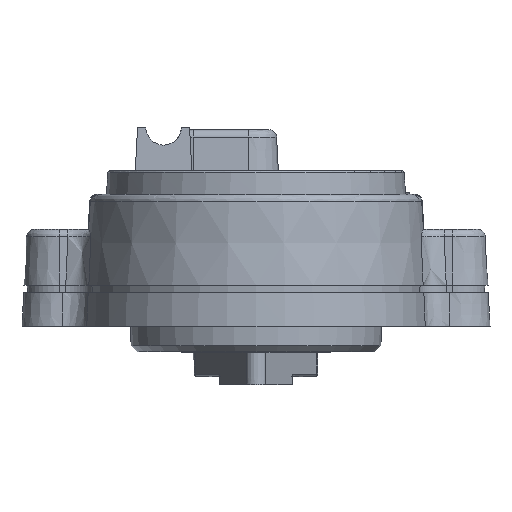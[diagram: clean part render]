
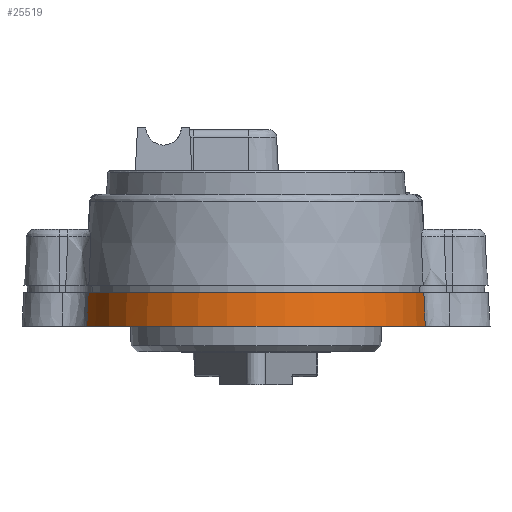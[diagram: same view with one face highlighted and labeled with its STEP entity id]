
A CAD part, left-side view. The second image highlights one B-rep face of the part: STEP entity #25519.
In plain terms, the highlighted conical face has half-angle 3 degrees and reference radius 22 mm.
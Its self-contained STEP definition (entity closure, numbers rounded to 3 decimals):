
#2554 = AXIS2_PLACEMENT_3D ( 'NONE', #8058, #27180, #33825 ) ;
#3323 = CARTESIAN_POINT ( 'NONE',  ( -62.205, 3.612, 5.426 ) ) ;
#3790 = ORIENTED_EDGE ( 'NONE', *, *, #26804, .T. ) ;
#3944 = EDGE_CURVE ( 'NONE', #24732, #22750, #13538, .T. ) ;
#4279 = AXIS2_PLACEMENT_3D ( 'NONE', #3323, #28489, #9762 ) ;
#5493 = DIRECTION ( 'NONE',  ( 0., 0., 1. ) ) ;
#6425 = CARTESIAN_POINT ( 'NONE',  ( -66.805, -17.902, 1.226 ) ) ;
#8058 = CARTESIAN_POINT ( 'NONE',  ( -62.205, 3.612, 1.226 ) ) ;
#9420 = DIRECTION ( 'NONE',  ( 0., 1., 0. ) ) ;
#9762 = DIRECTION ( 'NONE',  ( 0., 1., 0. ) ) ;
#10326 = CARTESIAN_POINT ( 'NONE',  ( -66.805, 25.126, 1.226 ) ) ;
#10597 = CIRCLE ( 'NONE', #39843, 22. ) ;
#10940 = CARTESIAN_POINT ( 'NONE',  ( -66.663, -17.781, 4.046 ) ) ;
#11056 = B_SPLINE_CURVE_WITH_KNOTS ( 'NONE', 3,
 ( #33584, #30275, #40039, #33371 ),
 .UNSPECIFIED., .F., .F.,
 ( 4, 4 ),
 ( 0., 1. ),
 .UNSPECIFIED. ) ;
#13015 = VERTEX_POINT ( 'NONE', #10326 ) ;
#13538 = CIRCLE ( 'NONE', #4279, 21.78 ) ;
#13865 = ORIENTED_EDGE ( 'NONE', *, *, #26716, .T. ) ;
#17151 = CARTESIAN_POINT ( 'NONE',  ( -66.592, 24.946, 5.426 ) ) ;
#18765 = CARTESIAN_POINT ( 'NONE',  ( -62.205, 3.612, 1.226 ) ) ;
#21121 = FACE_OUTER_BOUND ( 'NONE', #35019, .T. ) ;
#22750 = VERTEX_POINT ( 'NONE', #24426 ) ;
#23195 = CARTESIAN_POINT ( 'NONE',  ( -66.592, -17.721, 5.426 ) ) ;
#24426 = CARTESIAN_POINT ( 'NONE',  ( -66.592, -17.721, 5.426 ) ) ;
#24732 = VERTEX_POINT ( 'NONE', #17151 ) ;
#25519 = ADVANCED_FACE ( 'NONE', ( #21121 ), #33128, .T. ) ;
#26662 = ORIENTED_EDGE ( 'NONE', *, *, #40111, .T. ) ;
#26716 = EDGE_CURVE ( 'NONE', #24732, #13015, #11056, .T. ) ;
#26804 = EDGE_CURVE ( 'NONE', #13015, #39688, #10597, .T. ) ;
#26959 = CARTESIAN_POINT ( 'NONE',  ( -66.805, -17.902, 1.226 ) ) ;
#27180 = DIRECTION ( 'NONE',  ( 0., 0., -1. ) ) ;
#28489 = DIRECTION ( 'NONE',  ( 0., 0., 1. ) ) ;
#30275 = CARTESIAN_POINT ( 'NONE',  ( -66.663, 25.005, 4.046 ) ) ;
#31292 = ORIENTED_EDGE ( 'NONE', *, *, #3944, .F. ) ;
#33128 = CONICAL_SURFACE ( 'NONE', #2554, 22., 0.052 ) ;
#33371 = CARTESIAN_POINT ( 'NONE',  ( -66.805, 25.126, 1.226 ) ) ;
#33584 = CARTESIAN_POINT ( 'NONE',  ( -66.592, 24.946, 5.426 ) ) ;
#33825 = DIRECTION ( 'NONE',  ( 0., 1., 0. ) ) ;
#35019 = EDGE_LOOP ( 'NONE', ( #3790, #26662, #31292, #13865 ) ) ;
#36296 = B_SPLINE_CURVE_WITH_KNOTS ( 'NONE', 3,
 ( #26959, #36312, #10940, #23195 ),
 .UNSPECIFIED., .F., .F.,
 ( 4, 4 ),
 ( 0., 1. ),
 .UNSPECIFIED. ) ;
#36312 = CARTESIAN_POINT ( 'NONE',  ( -66.734, -17.841, 2.646 ) ) ;
#39688 = VERTEX_POINT ( 'NONE', #6425 ) ;
#39843 = AXIS2_PLACEMENT_3D ( 'NONE', #18765, #5493, #9420 ) ;
#40039 = CARTESIAN_POINT ( 'NONE',  ( -66.734, 25.065, 2.646 ) ) ;
#40111 = EDGE_CURVE ( 'NONE', #39688, #22750, #36296, .T. ) ;
